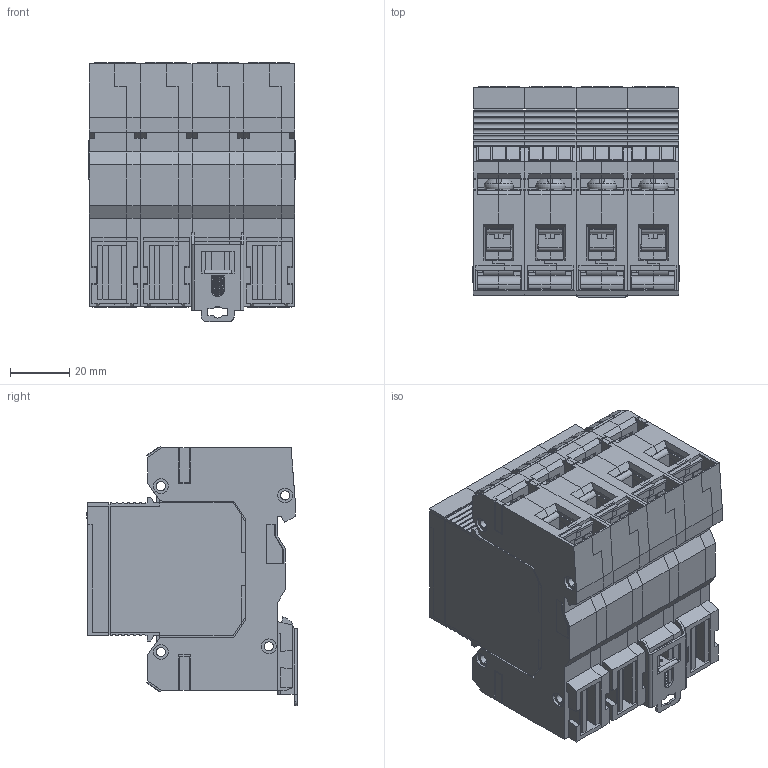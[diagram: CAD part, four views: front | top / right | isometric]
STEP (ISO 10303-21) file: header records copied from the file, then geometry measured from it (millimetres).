
FILE_DESCRIPTION (( 'STEP AP214' ), '1' );
FILE_NAME ('OptiIDn OM 4 瀁錌黟.STEP', '2022-12-05T08:20:25', ( '' ), ( '' ), 'SwSTEP 2.0', 'SolidWorks 2018', '' );
FILE_SCHEMA (( 'AUTOMOTIVE_DESIGN' ));
Length unit declared in the file: millimetre
Products named in the file (25): ﾂ鏆鮏 01; Îñíîâàíèå ìîäóëÿ Ï 50-095 ïóñòîé; Çàãëóøêà ìîäóëÿ Ë 50-084; 扻豵鵨 01 瀀嚦鍣; Ïðóæèíà çàùåëêè 13-007; 鎔艜 03-024; Âûâîä 53-027 îáðåçàíûé äëÿ ñàéòà; Ïëàñòèíà 52-040_Š4; Ïåðåìû÷êà 03-027; Çàãëóøêà ìîäóëÿ Ï 50-083; Çàùåëêà 11-010; Êîëîäêà 03-039 ïîä íîâûé ãàáàðèòû; Îñíîâàíèå ìîäóëÿ Ë 50-094(ïóñòîé ñ èçìåíåíûì ãàáàðèòîì)_„«ï ç¥àâ¥¦ ; Âñòàâêà êîäèðîâî÷íàÿ 50-082; OptiIDn OM 4 瀁錌黟; Êîäèðîâî÷íàÿ âñòàâêà; 署赅 01 矬耱铋; Ìåòêà 21-086; Ñüåìíûé ìîäóëü 01 ïóñòîé
Assembly tree (66 placements, depth 3):
  OptiIDn OM 4 瀁錌黟
    Îñíîâàíèå ìîäóëÿ Ë 50-094(ïóñòîé ñ èçìåíåíûì ãàáàðèòîì)_„«ï ç¥àâ¥¦ 
    Îñíîâàíèå ìîäóëÿ Ï 50-095 ïóñòîé
    Âûâîä 53-027 îáðåçàíûé äëÿ ñàéòà  x8
    Çàãëóøêà ìîäóëÿ Ë 50-084  x4
    Çàãëóøêà ìîäóëÿ Ï 50-083  x4
    Êîëîäêà 03-039 ïîä íîâûé ãàáàðèòû  x8
    Âñòàâêà êîäèðîâî÷íàÿ 50-082  x4
    鎔艜 03-024  x8
    Ïëàñòèíà 52-040_Š4
    Ìåòêà 21-086  x8
    Ñüåìíûé ìîäóëü 01 ïóñòîé  x4
      扻豵鵨 01 瀀嚦鍣
      署赅 01 矬耱铋
      Êîäèðîâî÷íàÿ âñòàâêà
      ﾂ鏆鮏 01
      Ìåòêà 21-086
    Îñíîâàíèå ìîäóëÿ Ï 50-095 ïóñòîé
    Îñíîâàíèå ìîäóëÿ Ï 50-095 ïóñòîé
    Îñíîâàíèå ìîäóëÿ Ï 50-095 ïóñòîé
    Îñíîâàíèå ìîäóëÿ Ë 50-094(ïóñòîé ñ èçìåíåíûì ãàáàðèòîì)_„«ï ç¥àâ¥¦ 
    Îñíîâàíèå ìîäóëÿ Ë 50-094(ïóñòîé ñ èçìåíåíûì ãàáàðèòîì)_„«ï ç¥àâ¥¦ 
    Îñíîâàíèå ìîäóëÿ Ë 50-094(ïóñòîé ñ èçìåíåíûì ãàáàðèòîì)_„«ï ç¥àâ¥¦ 
    Ïðóæèíà çàùåëêè 13-007
    Çàùåëêà 11-010
    Ïåðåìû÷êà 03-027
Bounding box: 69.8 x 70.98 x 87.56 mm (x, y, z)
Volume: 114785.8 mm3; surface area: 207698.9 mm2
Topology: 80 solids, 80 shells, 8130 faces, 22690 edges, 14790 vertices
Faces by surface type: plane 6625, cylinder 1445, torus 32, bspline 26, cone 2
Entity records: 129681 total; most frequent: CARTESIAN_POINT 25244, ORIENTED_EDGE 22286, DIRECTION 20282, EDGE_CURVE 11143, VECTOR 9778, LINE 9778, VERTEX_POINT 7326, AXIS2_PLACEMENT_3D 5252
